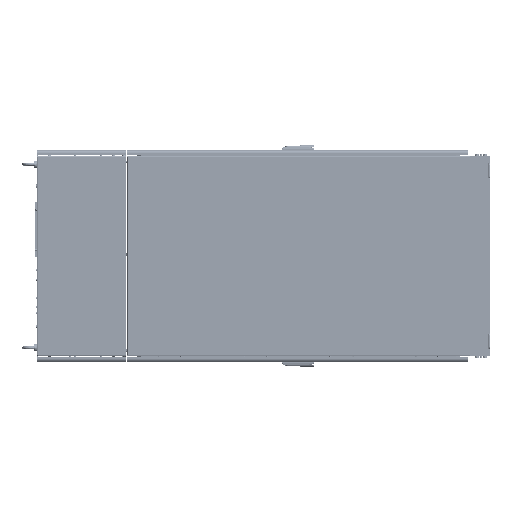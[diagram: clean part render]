
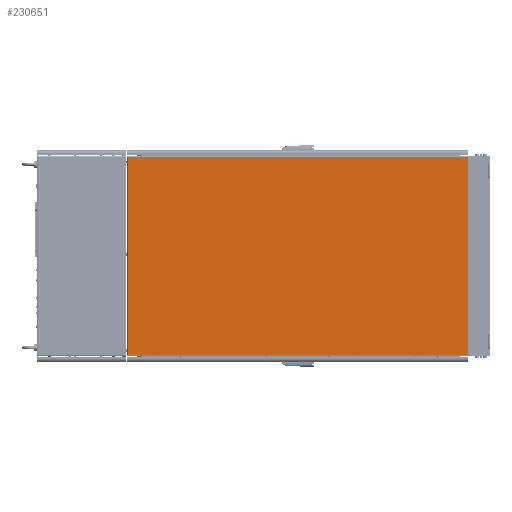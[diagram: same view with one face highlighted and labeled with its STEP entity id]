
A CAD part, left-side view. The second image highlights one B-rep face of the part: STEP entity #230651.
In plain terms, the highlighted planar face has unit normal (-1, 0, 0) as drawn and (0, 1, 0) by its records, which use the part's own axes.
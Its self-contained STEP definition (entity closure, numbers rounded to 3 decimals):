
#226990=DIRECTION('',(-1.,0.,0.));
#226991=VECTOR('',#226990,0.5);
#226992=CARTESIAN_POINT('',(493.,20.,843.75));
#226993=LINE('',#226992,#226991);
#226994=DIRECTION('',(1.,0.,0.));
#226995=VECTOR('',#226994,0.5);
#226996=CARTESIAN_POINT('',(-493.,20.,843.75));
#226997=LINE('',#226996,#226995);
#227016=DIRECTION('',(1.,0.,0.));
#227017=VECTOR('',#227016,985.);
#227018=CARTESIAN_POINT('',(-492.5,20.,843.75));
#227019=LINE('',#227018,#227017);
#227214=DIRECTION('',(0.,0.,1.));
#227215=VECTOR('',#227214,1687.5);
#227216=CARTESIAN_POINT('',(-493.,20.,-843.75));
#227217=LINE('',#227216,#227215);
#227493=DIRECTION('',(-1.,0.,0.));
#227494=VECTOR('',#227493,986.);
#227495=CARTESIAN_POINT('',(493.,20.,-843.75));
#227496=LINE('',#227495,#227494);
#228412=DIRECTION('',(0.,0.,-1.));
#228413=VECTOR('',#228412,1687.5);
#228414=CARTESIAN_POINT('',(493.,20.,843.75));
#228415=LINE('',#228414,#228413);
#230226=CARTESIAN_POINT('',(493.,20.,843.75));
#230227=VERTEX_POINT('',#230226);
#230228=CARTESIAN_POINT('',(493.,20.,-843.75));
#230229=VERTEX_POINT('',#230228);
#230254=CARTESIAN_POINT('',(492.5,20.,843.75));
#230255=VERTEX_POINT('',#230254);
#230380=CARTESIAN_POINT('',(-493.,20.,-843.75));
#230381=VERTEX_POINT('',#230380);
#230382=CARTESIAN_POINT('',(-493.,20.,843.75));
#230383=VERTEX_POINT('',#230382);
#230408=CARTESIAN_POINT('',(-492.5,20.,843.75));
#230409=VERTEX_POINT('',#230408);
#230633=CARTESIAN_POINT('',(0.,20.,0.));
#230634=DIRECTION('',(0.,-1.,0.));
#230635=DIRECTION('',(1.,0.,0.));
#230636=AXIS2_PLACEMENT_3D('',#230633,#230634,#230635);
#230637=PLANE('',#230636);
#230638=ORIENTED_EDGE('',*,*,#230623,.T.);
#230640=ORIENTED_EDGE('',*,*,#230639,.F.);
#230642=ORIENTED_EDGE('',*,*,#230641,.F.);
#230644=ORIENTED_EDGE('',*,*,#230643,.F.);
#230646=ORIENTED_EDGE('',*,*,#230645,.F.);
#230648=ORIENTED_EDGE('',*,*,#230647,.F.);
#230649=EDGE_LOOP('',(#230638,#230640,#230642,#230644,#230646,#230648));
#230650=FACE_OUTER_BOUND('',#230649,.F.);
#230623=EDGE_CURVE('',#230227,#230255,#226993,.T.);
#230639=EDGE_CURVE('',#230409,#230255,#227019,.T.);
#230641=EDGE_CURVE('',#230383,#230409,#226997,.T.);
#230643=EDGE_CURVE('',#230381,#230383,#227217,.T.);
#230645=EDGE_CURVE('',#230229,#230381,#227496,.T.);
#230647=EDGE_CURVE('',#230227,#230229,#228415,.T.);
#230651=ADVANCED_FACE('',(#230650),#230637,.F.);
